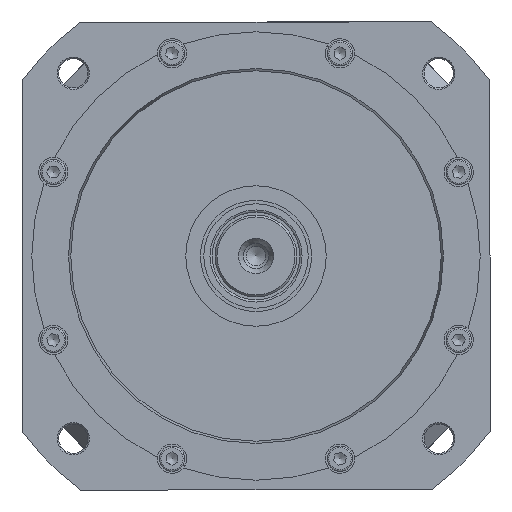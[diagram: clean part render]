
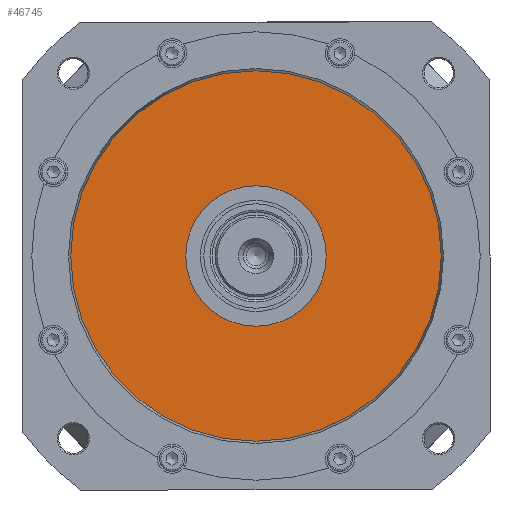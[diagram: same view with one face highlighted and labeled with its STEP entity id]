
A CAD part, left-side view. The second image highlights one B-rep face of the part: STEP entity #46745.
In plain terms, the highlighted planar face has unit normal (-1, 0, 0).
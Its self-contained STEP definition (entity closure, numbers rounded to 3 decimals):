
#10932=FACE_BOUND('',#16279,.T.);
#13383=FACE_OUTER_BOUND('',#16278,.T.);
#16278=EDGE_LOOP('',(#42115));
#16279=EDGE_LOOP('',(#42116));
#19082=CIRCLE('',#52013,95.);
#19084=CIRCLE('',#52016,36.);
#23267=VERTEX_POINT('',#93486);
#23269=VERTEX_POINT('',#93492);
#29656=EDGE_CURVE('',#23267,#23267,#19082,.T.);
#29659=EDGE_CURVE('',#23269,#23269,#19084,.T.);
#42115=ORIENTED_EDGE('',*,*,#29656,.F.);
#42116=ORIENTED_EDGE('',*,*,#29659,.T.);
#44267=PLANE('',#52015);
#46745=ADVANCED_FACE('',(#13383,#10932),#44267,.T.);
#52013=AXIS2_PLACEMENT_3D('',#93487,#64376,#64377);
#52015=AXIS2_PLACEMENT_3D('',#93491,#64381,#64382);
#52016=AXIS2_PLACEMENT_3D('',#93493,#64383,#64384);
#64376=DIRECTION('center_axis',(1.,0.,0.));
#64377=DIRECTION('ref_axis',(0.,1.,0.));
#64381=DIRECTION('center_axis',(-1.,0.,0.));
#64382=DIRECTION('ref_axis',(0.,-1.,0.));
#64383=DIRECTION('center_axis',(1.,0.,0.));
#64384=DIRECTION('ref_axis',(0.,1.,0.));
#93486=CARTESIAN_POINT('',(-251.7,0.,-95.));
#93487=CARTESIAN_POINT('Origin',(-251.7,0.,0.));
#93491=CARTESIAN_POINT('Origin',(-251.7,0.,95.));
#93492=CARTESIAN_POINT('',(-251.7,0.,-36.));
#93493=CARTESIAN_POINT('Origin',(-251.7,0.,0.));
